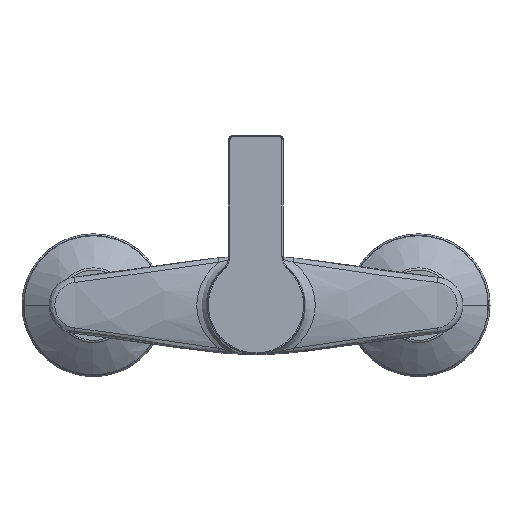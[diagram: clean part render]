
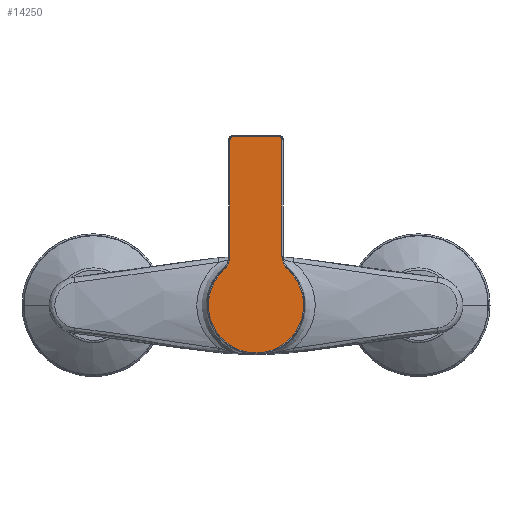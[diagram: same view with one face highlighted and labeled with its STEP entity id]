
A CAD part, front view. The second image highlights one B-rep face of the part: STEP entity #14250.
In plain terms, the highlighted planar face has unit normal (0, -1, 0) as drawn and (0, 0, -1) by its records, which use the part's own axes.
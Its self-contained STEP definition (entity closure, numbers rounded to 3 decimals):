
#345 = LINE ( 'NONE', #22659, #9144 ) ;
#410 = ORIENTED_EDGE ( 'NONE', *, *, #15519, .T. ) ;
#1429 = CARTESIAN_POINT ( 'NONE',  ( 77.954, -10.5, 0. ) ) ;
#1559 = CIRCLE ( 'NONE', #44048, 22. ) ;
#1898 = ORIENTED_EDGE ( 'NONE', *, *, #39973, .T. ) ;
#2266 = CARTESIAN_POINT ( 'NONE',  ( 0., 0., 0. ) ) ;
#2933 = DIRECTION ( 'NONE',  ( 1., 0., 0. ) ) ;
#3121 = VERTEX_POINT ( 'NONE', #6295 ) ;
#4868 = DIRECTION ( 'NONE',  ( 0., -1., 0. ) ) ;
#4916 = FACE_OUTER_BOUND ( 'NONE', #24986, .T. ) ;
#5187 = AXIS2_PLACEMENT_3D ( 'NONE', #9696, #13358, #2933 ) ;
#6295 = CARTESIAN_POINT ( 'NONE',  ( 76.454, -12., 0. ) ) ;
#6421 = VERTEX_POINT ( 'NONE', #34801 ) ;
#6511 = ORIENTED_EDGE ( 'NONE', *, *, #16384, .T. ) ;
#7357 = AXIS2_PLACEMENT_3D ( 'NONE', #31740, #15610, #28567 ) ;
#7997 = CARTESIAN_POINT ( 'NONE',  ( 22.583, 12., 0. ) ) ;
#8822 = CARTESIAN_POINT ( 'NONE',  ( 16.29, -14.787, 0. ) ) ;
#9144 = VECTOR ( 'NONE', #4868, 1000. ) ;
#9696 = CARTESIAN_POINT ( 'NONE',  ( 22.583, 20.5, 0. ) ) ;
#10032 = CIRCLE ( 'NONE', #28575, 1.5 ) ;
#10113 = CIRCLE ( 'NONE', #5187, 8.5 ) ;
#10506 = CARTESIAN_POINT ( 'NONE',  ( 22.583, -20.5, 0. ) ) ;
#11279 = EDGE_CURVE ( 'NONE', #15009, #36434, #10113, .T. ) ;
#11618 = DIRECTION ( 'NONE',  ( 0., 0., -1. ) ) ;
#13358 = DIRECTION ( 'NONE',  ( 0., 0., 1. ) ) ;
#14250 = ADVANCED_FACE ( 'NONE', ( #4916 ), #19015, .F. ) ;
#14887 = AXIS2_PLACEMENT_3D ( 'NONE', #10506, #28193, #38492 ) ;
#15009 = VERTEX_POINT ( 'NONE', #20308 ) ;
#15519 = EDGE_CURVE ( 'NONE', #31837, #15009, #1559, .T. ) ;
#15610 = DIRECTION ( 'NONE',  ( 0., 0., -1. ) ) ;
#16221 = VECTOR ( 'NONE', #17160, 1000. ) ;
#16384 = EDGE_CURVE ( 'NONE', #21727, #31837, #43359, .T. ) ;
#16655 = AXIS2_PLACEMENT_3D ( 'NONE', #2266, #19765, #44382 ) ;
#17160 = DIRECTION ( 'NONE',  ( 1., 0., 0. ) ) ;
#19015 = PLANE ( 'NONE',  #16655 ) ;
#19158 = ORIENTED_EDGE ( 'NONE', *, *, #21439, .T. ) ;
#19765 = DIRECTION ( 'NONE',  ( 0., 0., 1. ) ) ;
#20308 = CARTESIAN_POINT ( 'NONE',  ( 16.29, 14.787, 0. ) ) ;
#20737 = EDGE_CURVE ( 'NONE', #21732, #6421, #27076, .T. ) ;
#20844 = CARTESIAN_POINT ( 'NONE',  ( 76.454, 12., 0. ) ) ;
#21439 = EDGE_CURVE ( 'NONE', #27848, #3121, #10032, .T. ) ;
#21522 = CARTESIAN_POINT ( 'NONE',  ( 22.583, -12., 0. ) ) ;
#21727 = VERTEX_POINT ( 'NONE', #21522 ) ;
#21732 = VERTEX_POINT ( 'NONE', #25539 ) ;
#22659 = CARTESIAN_POINT ( 'NONE',  ( 77.954, 0., 0. ) ) ;
#22990 = ORIENTED_EDGE ( 'NONE', *, *, #11279, .T. ) ;
#23067 = DIRECTION ( 'NONE',  ( -1., 0., 0. ) ) ;
#23150 = VECTOR ( 'NONE', #23067, 1000. ) ;
#24986 = EDGE_LOOP ( 'NONE', ( #410, #22990, #32706, #38144, #1898, #19158, #43474, #6511 ) ) ;
#25539 = CARTESIAN_POINT ( 'NONE',  ( 76.454, 12., 0. ) ) ;
#26739 = LINE ( 'NONE', #20844, #16221 ) ;
#27076 = CIRCLE ( 'NONE', #7357, 1.5 ) ;
#27080 = CARTESIAN_POINT ( 'NONE',  ( 76.454, -10.5, 0. ) ) ;
#27531 = DIRECTION ( 'NONE',  ( 1., 0., 0. ) ) ;
#27848 = VERTEX_POINT ( 'NONE', #1429 ) ;
#27970 = EDGE_CURVE ( 'NONE', #3121, #21727, #33627, .T. ) ;
#28193 = DIRECTION ( 'NONE',  ( 0., 0., 1. ) ) ;
#28567 = DIRECTION ( 'NONE',  ( 1., 0., 0. ) ) ;
#28575 = AXIS2_PLACEMENT_3D ( 'NONE', #27080, #44907, #27531 ) ;
#31740 = CARTESIAN_POINT ( 'NONE',  ( 76.454, 10.5, 0. ) ) ;
#31837 = VERTEX_POINT ( 'NONE', #8822 ) ;
#32706 = ORIENTED_EDGE ( 'NONE', *, *, #43814, .T. ) ;
#33627 = LINE ( 'NONE', #34273, #23150 ) ;
#34273 = CARTESIAN_POINT ( 'NONE',  ( 22.583, -12., 0. ) ) ;
#34801 = CARTESIAN_POINT ( 'NONE',  ( 77.954, 10.5, 0. ) ) ;
#35929 = DIRECTION ( 'NONE',  ( 1., 0., 0. ) ) ;
#36434 = VERTEX_POINT ( 'NONE', #7997 ) ;
#38144 = ORIENTED_EDGE ( 'NONE', *, *, #20737, .T. ) ;
#38492 = DIRECTION ( 'NONE',  ( 1., 0., 0. ) ) ;
#39605 = CARTESIAN_POINT ( 'NONE',  ( 0., 0., 0. ) ) ;
#39973 = EDGE_CURVE ( 'NONE', #6421, #27848, #345, .T. ) ;
#43359 = CIRCLE ( 'NONE', #14887, 8.5 ) ;
#43474 = ORIENTED_EDGE ( 'NONE', *, *, #27970, .T. ) ;
#43814 = EDGE_CURVE ( 'NONE', #36434, #21732, #26739, .T. ) ;
#44048 = AXIS2_PLACEMENT_3D ( 'NONE', #39605, #11618, #35929 ) ;
#44382 = DIRECTION ( 'NONE',  ( 1., 0., 0. ) ) ;
#44907 = DIRECTION ( 'NONE',  ( 0., 0., -1. ) ) ;
